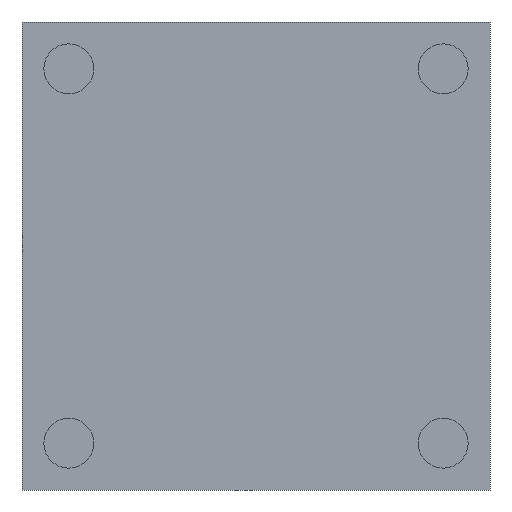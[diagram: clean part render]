
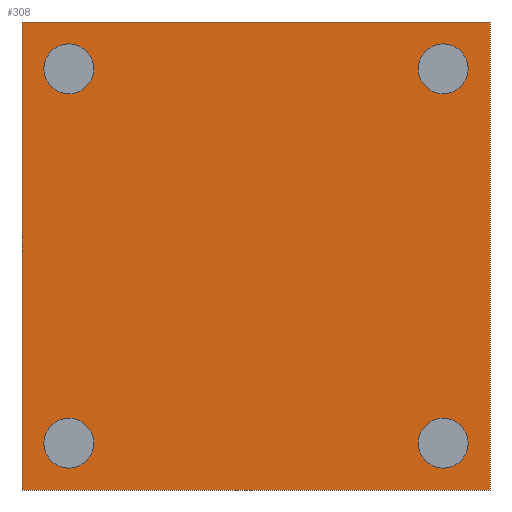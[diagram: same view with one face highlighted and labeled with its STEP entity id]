
A CAD part, front view. The second image highlights one B-rep face of the part: STEP entity #308.
In plain terms, the highlighted planar face has unit normal (0, -1, 0).
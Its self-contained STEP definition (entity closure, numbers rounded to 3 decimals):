
#1=CARTESIAN_POINT('',(12.,0.,12.));
#2=DIRECTION('',(0.,1.,0.));
#3=DIRECTION('',(-1.,0.,0.));
#4=AXIS2_PLACEMENT_3D('',#1,#2,#3);
#6=CARTESIAN_POINT('',(12.,0.,12.));
#7=DIRECTION('',(0.,1.,0.));
#8=DIRECTION('',(1.,0.,0.));
#9=AXIS2_PLACEMENT_3D('',#6,#7,#8);
#11=CARTESIAN_POINT('',(-12.,0.,12.));
#12=DIRECTION('',(0.,-1.,0.));
#13=DIRECTION('',(1.,0.,0.));
#14=AXIS2_PLACEMENT_3D('',#11,#12,#13);
#16=CARTESIAN_POINT('',(-12.,0.,12.));
#17=DIRECTION('',(0.,-1.,0.));
#18=DIRECTION('',(-1.,0.,0.));
#19=AXIS2_PLACEMENT_3D('',#16,#17,#18);
#21=CARTESIAN_POINT('',(-12.,0.,-12.));
#22=DIRECTION('',(0.,1.,0.));
#23=DIRECTION('',(1.,0.,0.));
#24=AXIS2_PLACEMENT_3D('',#21,#22,#23);
#26=CARTESIAN_POINT('',(-12.,0.,-12.));
#27=DIRECTION('',(0.,1.,0.));
#28=DIRECTION('',(-1.,0.,0.));
#29=AXIS2_PLACEMENT_3D('',#26,#27,#28);
#31=CARTESIAN_POINT('',(12.,0.,-12.));
#32=DIRECTION('',(0.,-1.,0.));
#33=DIRECTION('',(-1.,0.,0.));
#34=AXIS2_PLACEMENT_3D('',#31,#32,#33);
#36=CARTESIAN_POINT('',(12.,0.,-12.));
#37=DIRECTION('',(0.,-1.,0.));
#38=DIRECTION('',(1.,0.,0.));
#39=AXIS2_PLACEMENT_3D('',#36,#37,#38);
#136=CARTESIAN_POINT('',(-15.,0.,15.));
#138=DIRECTION('',(0.,0.,-1.));
#139=VECTOR('',#138,30.);
#140=CARTESIAN_POINT('',(-15.,0.,15.));
#141=LINE('',#140,#139);
#161=CARTESIAN_POINT('',(-15.,0.,-15.));
#163=DIRECTION('',(0.,0.,1.));
#164=VECTOR('',#163,30.);
#165=CARTESIAN_POINT('',(15.,0.,-15.));
#166=LINE('',#165,#164);
#186=CARTESIAN_POINT('',(15.,0.,15.));
#211=CARTESIAN_POINT('',(15.,0.,-15.));
#217=DIRECTION('',(1.,0.,0.));
#218=VECTOR('',#217,30.);
#219=CARTESIAN_POINT('',(-15.,0.,15.));
#220=LINE('',#219,#218);
#225=DIRECTION('',(1.,0.,0.));
#226=VECTOR('',#225,30.);
#227=CARTESIAN_POINT('',(-15.,0.,-15.));
#228=LINE('',#227,#226);
#230=VERTEX_POINT('',#211);
#235=CARTESIAN_POINT('',(10.4,0.,-12.));
#236=CARTESIAN_POINT('',(13.6,0.,-12.));
#237=VERTEX_POINT('',#235);
#238=VERTEX_POINT('',#236);
#240=VERTEX_POINT('',#161);
#245=CARTESIAN_POINT('',(-10.4,0.,-12.));
#246=CARTESIAN_POINT('',(-13.6,0.,-12.));
#247=VERTEX_POINT('',#245);
#248=VERTEX_POINT('',#246);
#250=VERTEX_POINT('',#186);
#255=CARTESIAN_POINT('',(10.4,0.,12.));
#256=CARTESIAN_POINT('',(13.6,0.,12.));
#257=VERTEX_POINT('',#255);
#258=VERTEX_POINT('',#256);
#260=VERTEX_POINT('',#136);
#265=CARTESIAN_POINT('',(-10.4,0.,12.));
#266=CARTESIAN_POINT('',(-13.6,0.,12.));
#267=VERTEX_POINT('',#265);
#268=VERTEX_POINT('',#266);
#269=CARTESIAN_POINT('',(0.,0.,0.));
#270=DIRECTION('',(0.,1.,0.));
#271=DIRECTION('',(1.,0.,0.));
#272=AXIS2_PLACEMENT_3D('',#269,#270,#271);
#273=PLANE('',#272);
#275=ORIENTED_EDGE('',*,*,#274,.F.);
#277=ORIENTED_EDGE('',*,*,#276,.T.);
#279=ORIENTED_EDGE('',*,*,#278,.F.);
#281=ORIENTED_EDGE('',*,*,#280,.F.);
#282=EDGE_LOOP('',(#275,#277,#279,#281));
#283=FACE_OUTER_BOUND('',#282,.F.);
#285=ORIENTED_EDGE('',*,*,#284,.F.);
#287=ORIENTED_EDGE('',*,*,#286,.F.);
#288=EDGE_LOOP('',(#285,#287));
#289=FACE_BOUND('',#288,.F.);
#291=ORIENTED_EDGE('',*,*,#290,.T.);
#293=ORIENTED_EDGE('',*,*,#292,.T.);
#294=EDGE_LOOP('',(#291,#293));
#295=FACE_BOUND('',#294,.F.);
#297=ORIENTED_EDGE('',*,*,#296,.F.);
#299=ORIENTED_EDGE('',*,*,#298,.F.);
#300=EDGE_LOOP('',(#297,#299));
#301=FACE_BOUND('',#300,.F.);
#303=ORIENTED_EDGE('',*,*,#302,.T.);
#305=ORIENTED_EDGE('',*,*,#304,.T.);
#306=EDGE_LOOP('',(#303,#305));
#307=FACE_BOUND('',#306,.F.);
#308=ADVANCED_FACE('',(#283,#289,#295,#301,#307),#273,.F.);
#5=CIRCLE('',#4,1.6);
#10=CIRCLE('',#9,1.6);
#15=CIRCLE('',#14,1.6);
#20=CIRCLE('',#19,1.6);
#25=CIRCLE('',#24,1.6);
#30=CIRCLE('',#29,1.6);
#35=CIRCLE('',#34,1.6);
#40=CIRCLE('',#39,1.6);
#274=EDGE_CURVE('',#260,#240,#141,.T.);
#276=EDGE_CURVE('',#260,#250,#220,.T.);
#278=EDGE_CURVE('',#230,#250,#166,.T.);
#280=EDGE_CURVE('',#240,#230,#228,.T.);
#284=EDGE_CURVE('',#257,#258,#5,.T.);
#286=EDGE_CURVE('',#258,#257,#10,.T.);
#290=EDGE_CURVE('',#267,#268,#15,.T.);
#292=EDGE_CURVE('',#268,#267,#20,.T.);
#296=EDGE_CURVE('',#247,#248,#25,.T.);
#298=EDGE_CURVE('',#248,#247,#30,.T.);
#302=EDGE_CURVE('',#237,#238,#35,.T.);
#304=EDGE_CURVE('',#238,#237,#40,.T.);
